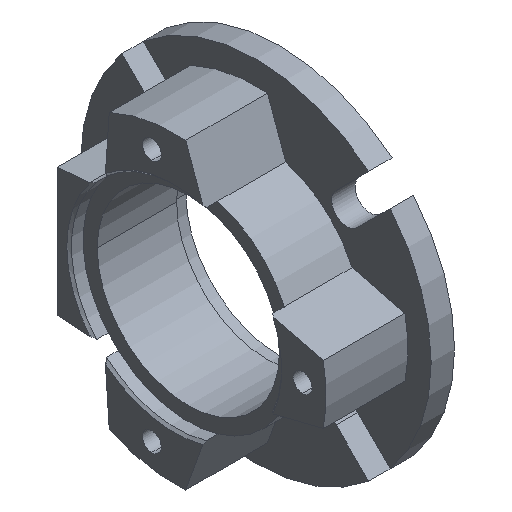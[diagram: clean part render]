
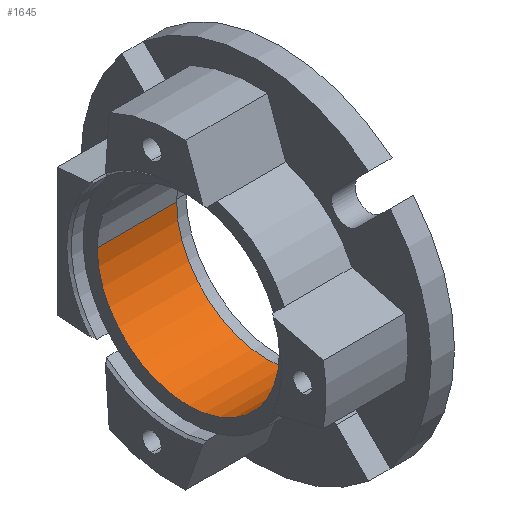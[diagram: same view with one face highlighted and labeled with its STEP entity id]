
A CAD part, isometric view. The second image highlights one B-rep face of the part: STEP entity #1645.
In plain terms, the highlighted cylindrical face has radius 19.5 mm (diameter 39 mm), a partial arc.
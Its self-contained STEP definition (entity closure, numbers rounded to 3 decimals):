
#535=CARTESIAN_POINT('',(20.,0.,0.));
#536=DIRECTION('',(-1.,0.,0.));
#537=DIRECTION('',(0.,1.,0.));
#538=AXIS2_PLACEMENT_3D('',#535,#536,#537);
#545=CARTESIAN_POINT('',(3.,0.,0.));
#546=DIRECTION('',(-1.,0.,0.));
#547=DIRECTION('',(0.,1.,0.));
#548=AXIS2_PLACEMENT_3D('',#545,#546,#547);
#550=DIRECTION('',(1.,0.,0.));
#551=VECTOR('',#550,17.);
#552=CARTESIAN_POINT('',(3.,19.5,0.));
#553=LINE('',#552,#551);
#559=DIRECTION('',(1.,0.,0.));
#560=VECTOR('',#559,17.);
#561=CARTESIAN_POINT('',(3.,-19.5,0.));
#562=LINE('',#561,#560);
#777=CARTESIAN_POINT('',(3.,19.5,0.));
#778=CARTESIAN_POINT('',(20.,19.5,0.));
#779=VERTEX_POINT('',#777);
#780=VERTEX_POINT('',#778);
#785=CARTESIAN_POINT('',(3.,-19.5,0.));
#786=CARTESIAN_POINT('',(20.,-19.5,0.));
#787=VERTEX_POINT('',#785);
#788=VERTEX_POINT('',#786);
#1631=CARTESIAN_POINT('',(23.625,0.,0.));
#1632=DIRECTION('',(-1.,0.,0.));
#1633=DIRECTION('',(0.,1.,0.));
#1634=AXIS2_PLACEMENT_3D('',#1631,#1632,#1633);
#1635=CYLINDRICAL_SURFACE('',#1634,19.5);
#1637=ORIENTED_EDGE('',*,*,#1636,.T.);
#1638=ORIENTED_EDGE('',*,*,#1624,.T.);
#1640=ORIENTED_EDGE('',*,*,#1639,.F.);
#1642=ORIENTED_EDGE('',*,*,#1641,.F.);
#1643=EDGE_LOOP('',(#1637,#1638,#1640,#1642));
#1644=FACE_OUTER_BOUND('',#1643,.F.);
#1645=ADVANCED_FACE('',(#1644),#1635,.F.);
#539=CIRCLE('',#538,19.5);
#549=CIRCLE('',#548,19.5);
#1624=EDGE_CURVE('',#780,#788,#539,.T.);
#1636=EDGE_CURVE('',#779,#780,#553,.T.);
#1639=EDGE_CURVE('',#787,#788,#562,.T.);
#1641=EDGE_CURVE('',#779,#787,#549,.T.);
